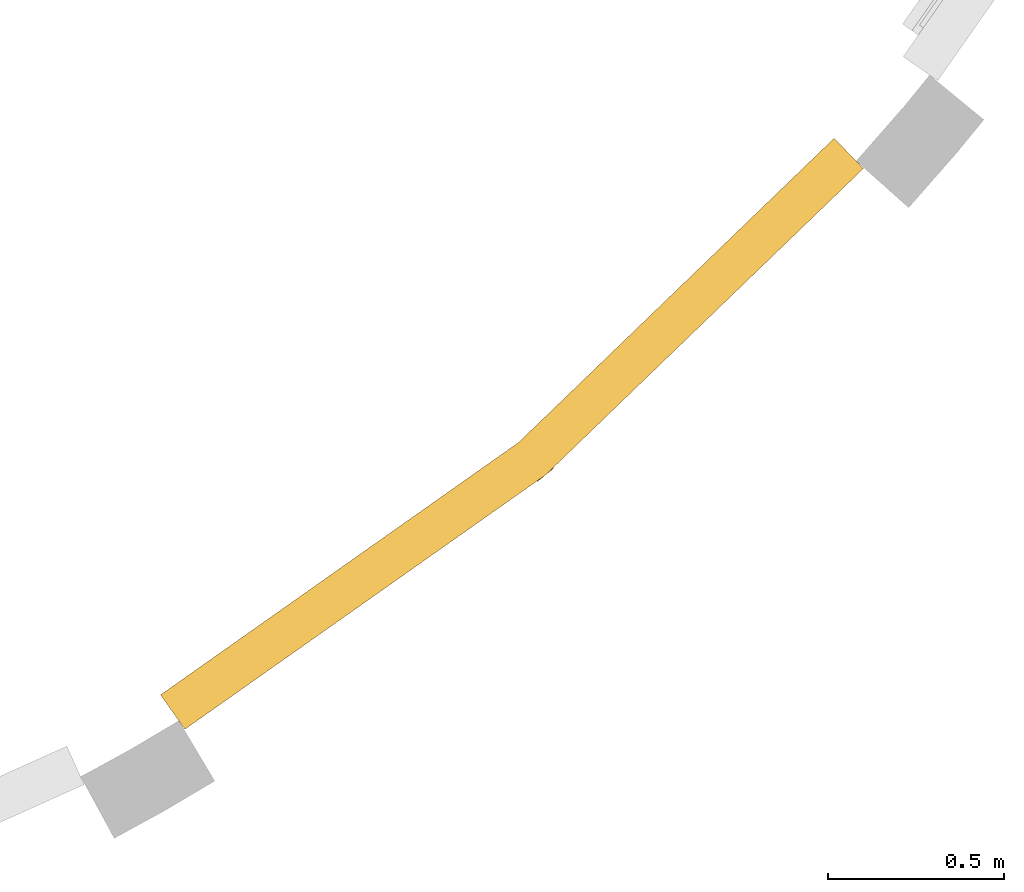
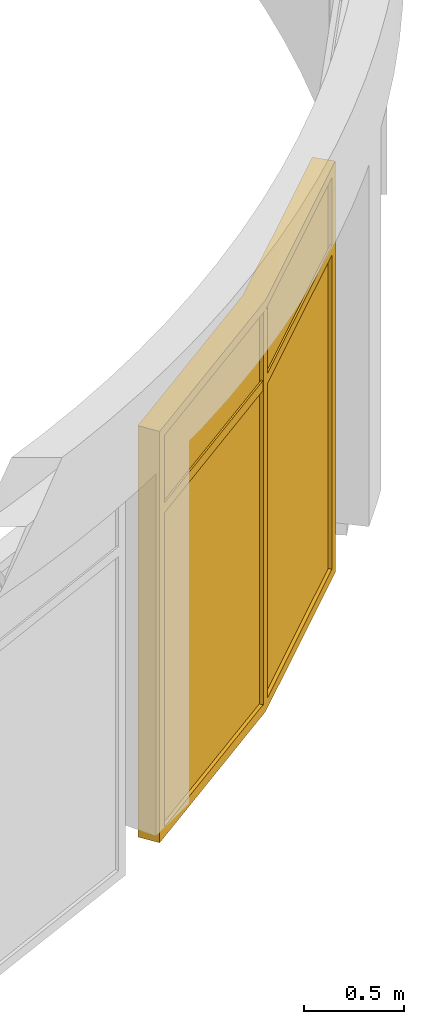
# One storey, part 6 of 7: 1 curtain wall.
"""IFC4 building model written with IfcOpenShell, lengths in millimetres."""

import ifcopenshell
import ifcopenshell.guid

model = None  # the IFC model being written
_history = None  # IfcOwnerHistory: only IFC2X3 demands one
_inside = {}  # id of a spatial element -> (the spatial element, [elements in it])
_under = {}  # id of a project, library or spatial element -> (it, [spatial elements below it])
_declared = {}  # id of a project -> (the project, [libraries it declares])
_typed = {}  # id of a type object -> (the type object, [elements of that type])
_made_of = {}  # id of a material, layer set ... -> (it, [elements and type objects made of it])


def new_model(schema):
    """Start an empty IFC model of exactly this schema.

    Asked for "IFC4X3", IfcOpenShell would pick the latest addendum, in which some entities
    have other attributes; the version numbers below select the first issue.
    IFC2X3 requires an IfcOwnerHistory on every rooted entity: one is made here for all.
    """
    global model, _history
    if schema == "IFC4X3":
        model = ifcopenshell.file(schema_version=(4, 3, 0, 0))
    else:
        model = ifcopenshell.file(schema=schema)
    _inside.clear()
    _under.clear()
    _declared.clear()
    _typed.clear()
    _made_of.clear()
    _history = None
    if model.schema == "IFC2X3":
        org = make("IfcOrganization", Name="unknown")
        user = make(
            "IfcPersonAndOrganization",
            ThePerson=make("IfcPerson", FamilyName="unknown"),
            TheOrganization=org,
        )
        app = make(
            "IfcApplication",
            ApplicationDeveloper=org,
            Version="unknown",
            ApplicationFullName="unknown",
            ApplicationIdentifier="unknown",
        )
        _history = make(
            "IfcOwnerHistory",
            OwningUser=user,
            OwningApplication=app,
            ChangeAction="ADDED",
            CreationDate=0,
        )
    return model


def make(cls, **values):
    """One entity of the class cls with the attributes given. An attribute that is None is left unset."""
    return model.create_entity(
        cls, **{name: value for name, value in values.items() if value is not None}
    )


def entity(cls, *values):
    """Any entity or typed value of the class cls, its attributes in the order of the schema. None: left unset."""
    e = model.create_entity(cls)
    for i, value in enumerate(values):
        if value is not None:
            e[i] = value
    return e


def rooted(cls, **values):
    """An entity with a GlobalId (a new one), such as an element, a storey or a relation."""
    return make(cls, GlobalId=ifcopenshell.guid.new(), OwnerHistory=_history, **values)


def si_unit(unit_type, name, prefix=None):
    """IfcSIUnit, for example si_unit("LENGTHUNIT", "METRE", prefix="MILLI")."""
    return make("IfcSIUnit", UnitType=unit_type, Prefix=prefix, Name=name)


def converted_unit(unit_type, name, factor, base, dimensions=None, offset=None):
    """IfcConversionBasedUnit, such as the inch: factor (a typed value) times the base unit."""
    return make(
        "IfcConversionBasedUnit"
        if offset is None
        else "IfcConversionBasedUnitWithOffset",
        ConversionOffset=offset,
        Dimensions=None
        if dimensions is None
        else entity("IfcDimensionalExponents", *dimensions),
        UnitType=unit_type,
        Name=name,
        ConversionFactor=make(
            "IfcMeasureWithUnit", ValueComponent=factor, UnitComponent=base
        ),
    )


def derived_unit(unit_type, elements):
    """IfcDerivedUnit: a product of units, each with its exponent."""
    return make(
        "IfcDerivedUnit",
        Elements=[
            make("IfcDerivedUnitElement", Unit=unit, Exponent=power)
            for unit, power in elements
        ],
        UnitType=unit_type,
    )


def assignment(units):
    """IfcUnitAssignment: the units of a project."""
    return None if units is None else make("IfcUnitAssignment", Units=units)


def point(xyz):
    """IfcCartesianPoint."""
    return None if xyz is None else make("IfcCartesianPoint", Coordinates=xyz)


def direction(xyz):
    """IfcDirection."""
    return None if xyz is None else make("IfcDirection", DirectionRatios=xyz)


def frame(location, z_axis=None, x_axis=None):
    """IfcAxis2Placement3D, a coordinate frame: its origin and axes. An axis left out is left unset."""
    return make(
        "IfcAxis2Placement3D",
        Location=point(location),
        Axis=direction(z_axis),
        RefDirection=direction(x_axis),
    )


def origin_with_axes():
    """The frame at (0, 0, 0) with the z axis (0, 0, 1) and the x axis (1, 0, 0) written out."""
    return frame((0.0, 0.0, 0.0), z_axis=(0.0, 0.0, 1.0), x_axis=(1.0, 0.0, 0.0))


def place(relative_to, where):
    """IfcLocalPlacement: puts the frame where relative to a parent placement (None: the world)."""
    return make(
        "IfcLocalPlacement", PlacementRelTo=relative_to, RelativePlacement=where
    )


def context(
    kind, dimensions, precision=None, world=None, true_north=None, identifier=None
):
    """IfcGeometricRepresentationContext, for example the 3D "Model" context."""
    return make(
        "IfcGeometricRepresentationContext",
        ContextIdentifier=identifier,
        ContextType=kind,
        CoordinateSpaceDimension=dimensions,
        Precision=precision,
        WorldCoordinateSystem=world,
        TrueNorth=true_north,
    )


def subcontext(parent, identifier, kind, view, scale=None):
    """IfcGeometricRepresentationSubContext, for example "Body" below "Model"."""
    return make(
        "IfcGeometricRepresentationSubContext",
        ContextIdentifier=identifier,
        ContextType=kind,
        ParentContext=parent,
        TargetScale=scale,
        TargetView=view,
    )


def project(units=None, contexts=None):
    """IfcProject with its units and contexts."""
    return rooted(
        "IfcProject",
        Name="project",
        RepresentationContexts=contexts,
        UnitsInContext=assignment(units),
    )


def spatial(cls, under=None, at=None, **own):
    """A site, building, storey or space (cls), placed at a placement, below another one or the project."""
    s = rooted(cls, ObjectPlacement=at, **own)
    if under is not None:
        _under.setdefault(under.id(), (under, []))[1].append(s)
    return s


def point_list(points):
    """IfcCartesianPointList2D or 3D."""
    cls = (
        "IfcCartesianPointList2D" if len(points[0]) == 2 else "IfcCartesianPointList3D"
    )
    return make(cls, CoordList=points)


def polygons(points, faces, closed=None, point_numbers=None):
    """IfcPolygonalFaceSet: a face is its outer loop, then its inner loops; points numbered from 1."""
    made = []
    for loops in faces:
        if len(loops) == 1:
            made.append(make("IfcIndexedPolygonalFace", CoordIndex=loops[0]))
        else:
            made.append(
                make(
                    "IfcIndexedPolygonalFaceWithVoids",
                    CoordIndex=loops[0],
                    InnerCoordIndices=loops[1:],
                )
            )
    return make(
        "IfcPolygonalFaceSet",
        Coordinates=point_list(points),
        Closed=closed,
        Faces=made,
        PnIndex=point_numbers,
    )


def shape(context_of_items, identifier, shape_type, items):
    """IfcShapeRepresentation: the items that make up one representation, for example the "Body"."""
    return make(
        "IfcShapeRepresentation",
        ContextOfItems=context_of_items,
        RepresentationIdentifier=identifier,
        RepresentationType=shape_type,
        Items=items,
    )


def material(Name=None, Category=None):
    """IfcMaterial."""
    return make("IfcMaterial", Name=Name, Category=Category)


def constituent(of_material, Name=None, Category=None, fraction=None):
    """IfcMaterialConstituent: one of the materials an element consists of."""
    return make(
        "IfcMaterialConstituent",
        Name=Name,
        Material=of_material,
        Fraction=fraction,
        Category=Category,
    )


def constituent_set(constituents=None, Name=None):
    """IfcMaterialConstituentSet."""
    return make(
        "IfcMaterialConstituentSet", Name=Name, MaterialConstituents=constituents
    )


def made_of(thing, what):
    """Note that an element or type object is made of a material, layer set ...; save() writes the relation."""
    if what is not None:
        _made_of.setdefault(what.id(), (what, []))[1].append(thing)
    return thing


def type_object(cls, material=None, **own):
    """A type object (cls), such as IfcWallType, which elements share."""
    return made_of(rooted(cls, **own), material)


def element(
    cls,
    number,
    at=None,
    inside=None,
    cuts=None,
    type_object=None,
    material=None,
    context=None,
    identifier="Body",
    shape_type=None,
    held_by="IfcProductDefinitionShape",
    body=None,
    shapes=None,
    **own,
):
    """One element of the class cls, such as IfcWall. Its Tag is "e" and its number.

    at: its placement. inside: the storey or other place that contains it. cuts: it is an
    opening in that element (IfcRelVoidsElement). A single representation is given by context,
    identifier, shape_type and body (its items); several are given by shapes. held_by: the class
    of the entity that holds the representations. save() writes the other relations.
    """
    e = rooted(cls, Tag="e%d" % number, ObjectPlacement=at, **own)
    if body is not None:
        shapes = [shape(context, identifier, shape_type, body)]
    if shapes is not None:
        e.Representation = make(held_by, Representations=shapes)
    if inside is not None:
        _inside.setdefault(inside.id(), (inside, []))[1].append(e)
    if cuts is not None:
        rooted(
            "IfcRelVoidsElement", RelatingBuildingElement=cuts, RelatedOpeningElement=e
        )
    if type_object is not None:
        _typed.setdefault(type_object.id(), (type_object, []))[1].append(e)
    return made_of(e, material)


def aggregate(whole, parts):
    """IfcRelAggregates: a whole, such as a stair, and the parts it consists of."""
    return rooted("IfcRelAggregates", RelatingObject=whole, RelatedObjects=parts)


def save(model, path):
    """Write the relations noted so far, then the file.

    IfcRelAggregates (storeys below a building ...), IfcRelContainedInSpatialStructure (elements
    in a storey), IfcRelDefinesByType, IfcRelAssociatesMaterial and IfcRelDeclares: one each for
    every whole, place, type object, material and project.
    """
    for whole, parts in _under.values():
        aggregate(whole, parts)
    for where, things in _inside.values():
        rooted(
            "IfcRelContainedInSpatialStructure",
            RelatedElements=things,
            RelatingStructure=where,
        )
    for kind, things in _typed.values():
        rooted("IfcRelDefinesByType", RelatedObjects=things, RelatingType=kind)
    for what, things in _made_of.values():
        rooted("IfcRelAssociatesMaterial", RelatedObjects=things, RelatingMaterial=what)
    for by, libraries in _declared.values():
        rooted("IfcRelDeclares", RelatingContext=by, RelatedDefinitions=libraries)
    model.write(path)


model = new_model("IFC4")

# Units and contexts
model_context = context("Model", 3, precision=0.01, world=origin_with_axes(), true_north=direction((0.0, 1.0)))
body_context = subcontext(model_context, "Body", "Model", "MODEL_VIEW")
ifc_project = project(units=[si_unit("LENGTHUNIT", "METRE", prefix="MILLI"), si_unit("AREAUNIT", "SQUARE_METRE"), si_unit("VOLUMEUNIT", "CUBIC_METRE"), converted_unit("PLANEANGLEUNIT", "DEGREE", entity("IfcPlaneAngleMeasure", 0.0174532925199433), si_unit("PLANEANGLEUNIT", "RADIAN"), dimensions=[0, 0, 0, 0, 0, 0, 0]), converted_unit("TIMEUNIT", "Year", entity("IfcTimeMeasure", 31557600.0), si_unit("TIMEUNIT", "SECOND"), dimensions=[0, 0, 1, 0, 0, 0, 0]), si_unit("MASSUNIT", "GRAM", prefix="KILO"), si_unit("THERMODYNAMICTEMPERATUREUNIT", "DEGREE_CELSIUS"), si_unit("LUMINOUSINTENSITYUNIT", "LUMEN"), si_unit("ENERGYUNIT", "JOULE", prefix="MEGA"), derived_unit("THERMALCONDUCTANCEUNIT", [(si_unit("POWERUNIT", "WATT"), 1), (si_unit("LENGTHUNIT", "METRE"), -1), (si_unit("THERMODYNAMICTEMPERATUREUNIT", "KELVIN"), -1)]), derived_unit("SPECIFICHEATCAPACITYUNIT", [(si_unit("ENERGYUNIT", "JOULE"), 1), (si_unit("MASSUNIT", "GRAM", prefix="KILO"), -1), (si_unit("THERMODYNAMICTEMPERATUREUNIT", "KELVIN"), -1)]), derived_unit("MASSDENSITYUNIT", [(si_unit("MASSUNIT", "GRAM", prefix="KILO"), 1), (si_unit("VOLUMEUNIT", "CUBIC_METRE"), -1)])], contexts=[model_context])

# Site, building, storey
site_placement = place(None, origin_with_axes())
site = spatial("IfcSite", under=ifc_project, at=site_placement, Name="Exteriér", CompositionType="ELEMENT")
building_placement = place(site_placement, origin_with_axes())
building = spatial("IfcBuilding", under=site, at=building_placement, Name="Univerzitní lezecké centrum", CompositionType="ELEMENT")
storey_placement = place(building_placement, origin_with_axes())
storey = spatial("IfcBuildingStorey", under=building, at=storey_placement, Name="1.NP", CompositionType="ELEMENT", Elevation=0.0)

# Curtain wall
ifc_material_1 = material(Name="Sklo")
ifc_constituent_1 = constituent(ifc_material_1, Name="Sklo 1")
ifc_constituent_2 = constituent(ifc_material_1, Name="Sklo 2")
ifc_constituent_3 = constituent(ifc_material_1, Name="Sklo 3")
ifc_constituent_4 = constituent(ifc_material_1, Name="Sklo 4")
ifc_material_2 = material(Name="Hliník")
ifc_constituent_5 = constituent(ifc_material_2, Name="Hliník 1")
ifc_constituent_6 = constituent(ifc_material_2, Name="Hliník 2")
ifc_constituent_7 = constituent(ifc_material_2, Name="Hliník 3")
ifc_constituent_8 = constituent(ifc_material_2, Name="Hliník 4")
ifc_constituent_9 = constituent(ifc_material_2, Name="Hliník 5")
ifc_constituent_10 = constituent(ifc_material_2, Name="Hliník 6")
ifc_constituent_11 = constituent(ifc_material_2, Name="Hliník 7")
ifc_constituent_12 = constituent(ifc_material_2, Name="Hliník 8")
ifc_constituent_13 = constituent(ifc_material_2, Name="Hliník 9")
ifc_constituent_14 = constituent(ifc_material_2, Name="Hliník 10")
ifc_constituent_15 = constituent(ifc_material_2, Name="Hliník 11")
ifc_constituent_16 = constituent(ifc_material_2, Name="Hliník 12")
ifc_constituent_set = constituent_set(constituents=[ifc_constituent_1, ifc_constituent_2, ifc_constituent_3, ifc_constituent_4, ifc_constituent_5, ifc_constituent_6, ifc_constituent_7, ifc_constituent_8, ifc_constituent_9, ifc_constituent_10, ifc_constituent_11, ifc_constituent_12, ifc_constituent_13, ifc_constituent_14, ifc_constituent_15, ifc_constituent_16])
curtain_wall_type = type_object("IfcCurtainWallType", Name="Typ lehkého obvodového pláště", PredefinedType="NOTDEFINED")
curtain_wall_placement = place(storey_placement, frame((7160.913689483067, -6982.286112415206, 0.0), z_axis=(0.0, 0.0, 1.0), x_axis=(1.0, 0.0, 0.0)))
element("IfcCurtainWall", 1, at=curtain_wall_placement, inside=storey, type_object=curtain_wall_type, material=ifc_constituent_set, Name="LOP01", PredefinedType="NOTDEFINED", context=body_context, shape_type="Tessellation", body=[
    polygons([(-493.5687337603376, -335.7401238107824, 1997.00000596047), (-482.0444864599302, -352.0861240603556, 1997.00000596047), (518.0157722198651, 352.9757602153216, 1997.00000596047), (506.4915249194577, 369.3217604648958, 1997.00000596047), (-493.5687337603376, -335.7401238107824, 30.00000000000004), (-482.0444864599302, -352.0861240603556, 30.00000000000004), (518.0157722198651, 352.9757602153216, 30.0), (506.4915249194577, 369.3217604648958, 30.0)], [[[1, 2, 3, 4]], [[5, 6, 2, 1]], [[2, 6, 7, 3]], [[4, 3, 7, 8]], [[1, 4, 8, 5]], [[8, 7, 6, 5]]], closed=True),
    polygons([(505.4483352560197, 368.4597200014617, 1997.00000596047), (519.3296050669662, 354.0614441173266, 1997.00000596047), (1400.226661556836, 1203.327690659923, 1997.00000596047), (1386.345391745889, 1217.725966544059, 1997.00000596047), (505.4483352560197, 368.4597200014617, 30.00000000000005), (519.3296050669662, 354.0614441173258, 30.00000000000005), (1400.226661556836, 1203.327690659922, 30.0), (1386.345391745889, 1217.725966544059, 30.0)], [[[1, 2, 3, 4]], [[5, 6, 2, 1]], [[2, 6, 7, 3]], [[4, 3, 7, 8]], [[1, 4, 8, 5]], [[8, 7, 6, 5]]], closed=True),
    polygons([(505.4483381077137, 368.4597227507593, 2469.999936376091), (519.3296079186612, 354.0614468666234, 2469.999936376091), (1400.226667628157, 1203.327696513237, 2469.999936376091), (1386.345397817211, 1217.725972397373, 2469.999936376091), (505.4483381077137, 368.4597227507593, 2002.999991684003), (519.3296079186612, 354.0614468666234, 2002.999991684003), (1400.226667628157, 1203.327696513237, 2002.999991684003), (1386.345397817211, 1217.725972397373, 2002.999991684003)], [[[1, 2, 3, 4]], [[5, 6, 2, 1]], [[2, 6, 7, 3]], [[4, 3, 7, 8]], [[1, 4, 8, 5]], [[8, 7, 6, 5]]], closed=True),
    polygons([(-493.568730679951, -335.7401216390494, 2469.99993637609), (-482.0444833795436, -352.0861218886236, 2469.99993637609), (518.0157789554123, 352.9757649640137, 2469.99993637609), (506.4915316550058, 369.321765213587, 2469.99993637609), (-493.568730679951, -335.7401216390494, 2002.999991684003), (-482.0444833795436, -352.0861218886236, 2002.999991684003), (518.0157789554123, 352.9757649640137, 2002.999991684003), (506.4915316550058, 369.321765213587, 2002.999991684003)], [[[1, 2, 3, 4]], [[5, 6, 2, 1]], [[2, 6, 7, 3]], [[4, 3, 7, 8]], [[1, 4, 8, 5]], [[8, 7, 6, 5]]], closed=True),
    polygons([(505.9368904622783, 368.9307324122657, 30.00000000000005), (505.9368904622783, 368.9307324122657, 60.00000000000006), (454.8272100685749, 430.780688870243, 60.00000000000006), (454.8272100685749, 430.780688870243, 0.0), (531.4917306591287, 338.0057541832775, 0.0), (531.4917306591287, 338.0057541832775, 60.00000000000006), (518.7143105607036, 353.4682432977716, 60.00000000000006), (518.7143105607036, 353.4682432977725, 30.00000000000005), (1386.345391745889, 1217.725966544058, 30.0), (1364.747977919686, 1196.904061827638, 60.0), (1309.222898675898, 1254.497165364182, 60.0), (1352.417726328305, 1296.140974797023, 0.0), (1435.705345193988, 1209.751319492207, 0.0), (1392.510517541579, 1168.107510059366, 60.0), (1378.629247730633, 1182.505785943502, 60.0), (1400.226661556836, 1203.327690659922, 30.0)], [[[1, 2, 3, 4, 5, 6, 7, 8]], [[1, 9, 10, 2]], [[10, 11, 3, 2]], [[3, 11, 12, 4]], [[4, 12, 13, 5]], [[5, 13, 14, 6]], [[7, 6, 14, 15]], [[15, 16, 8, 7]], [[8, 16, 9, 1]], [[9, 16, 15, 14, 13, 12, 11, 10]]], closed=True),
    polygons([(521.2725348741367, 397.6062642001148, 1997.0), (546.827375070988, 366.6812859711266, 1997.0), (546.827375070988, 366.6812859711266, 1970.0), (553.2160851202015, 358.9500414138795, 1970.0), (553.2160851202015, 358.9500414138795, 2030.0), (546.827375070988, 366.6812859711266, 2030.0), (546.827375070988, 366.6812859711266, 2003.0), (521.2725348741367, 397.6062642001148, 2003.0), (521.2725348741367, 397.6062642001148, 2030.0), (514.8838248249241, 405.3375087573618, 2030.0), (514.8838248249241, 405.3375087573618, 1970.0), (521.2725348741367, 397.6062642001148, 1970.0), (1357.807343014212, 1204.103199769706, 1997.0), (1385.569882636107, 1175.306648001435, 1997.0), (1385.569882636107, 1175.306648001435, 1970.0), (1392.510517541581, 1168.107510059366, 1970.0), (1392.510517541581, 1168.107510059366, 2030.0), (1385.569882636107, 1175.306648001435, 2030.0), (1385.569882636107, 1175.306648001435, 2003.0), (1357.807343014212, 1204.103199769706, 2003.0), (1357.807343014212, 1204.103199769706, 2030.0), (1350.86670810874, 1211.302337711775, 2030.0), (1350.86670810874, 1211.302337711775, 1970.0), (1357.807343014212, 1204.103199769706, 1970.0)], [[[1, 2, 3, 4, 5, 6, 7, 8, 9, 10, 11, 12]], [[1, 13, 14, 2]], [[2, 14, 15, 3]], [[15, 16, 4, 3]], [[5, 4, 16, 17]], [[18, 6, 5, 17]], [[6, 18, 19, 7]], [[8, 7, 19, 20]], [[9, 8, 20, 21]], [[9, 21, 22, 10]], [[11, 10, 22, 23]], [[12, 11, 23, 24]], [[12, 24, 13, 1]], [[14, 13, 24, 23, 22, 21, 20, 19, 18, 17, 16, 15]]], closed=True),
    polygons([(-493.5687237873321, -335.7401167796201, 2000.0), (-469.0497234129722, -318.45374582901, 2000.0), (-515.1467126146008, -253.0697448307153, 2000.0), (-564.1847133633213, -287.6424867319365, 2000.0), (-495.0392295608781, -385.7184882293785, 2000.0), (-446.0012288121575, -351.1457463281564, 2000.0), (-457.5254761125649, -334.7997460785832, 2000.0), (-482.0444764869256, -352.0861170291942, 2000.0), (-493.5687237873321, -335.7401167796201, 30.00000000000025), (-469.0497234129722, -318.45374582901, 59.99999999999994), (-515.1467126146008, -253.0697448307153, 60.00000000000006), (-564.1847133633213, -287.6424867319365, 0.0), (-495.0392295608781, -385.7184882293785, 0.0), (-446.0012288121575, -351.1457463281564, 59.99999999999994), (-457.5254761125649, -334.7997460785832, 59.99999999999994), (-482.0444764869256, -352.0861170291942, 30.00000000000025)], [[[1, 2, 3, 4, 5, 6, 7, 8]], [[1, 9, 10, 2]], [[10, 11, 3, 2]], [[3, 11, 12, 4]], [[4, 12, 13, 5]], [[5, 13, 14, 6]], [[7, 6, 14, 15]], [[15, 16, 8, 7]], [[8, 16, 9, 1]], [[9, 16, 15, 14, 13, 12, 11, 10]]], closed=True),
    polygons([(-474.8118470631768, -310.2807457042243, 1997.0), (-451.763352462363, -342.9727462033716, 1997.0), (-451.763352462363, -342.9727462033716, 1970.0), (-446.0012288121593, -351.1457463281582, 1970.0), (-446.0012288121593, -351.1457463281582, 2030.0), (-451.763352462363, -342.9727462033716, 2030.0), (-451.763352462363, -342.9727462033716, 2003.0), (-474.8118470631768, -310.2807457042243, 2003.0), (-474.8118470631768, -310.2807457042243, 2030.0), (-480.5739707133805, -302.1077455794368, 2030.0), (-480.5739707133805, -302.1077455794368, 1970.0), (-474.8118470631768, -310.2807457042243, 1970.0), (474.8850675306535, 359.2740039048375, 1997.0), (500.4399077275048, 328.3490256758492, 1997.0), (500.4399077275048, 328.3490256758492, 1970.0), (506.8286177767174, 320.6177811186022, 1970.0), (506.8286177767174, 320.6177811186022, 2030.0), (500.4399077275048, 328.3490256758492, 2030.0), (500.4399077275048, 328.3490256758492, 2003.0), (474.8850675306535, 359.2740039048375, 2003.0), (474.8850675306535, 359.2740039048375, 2030.0), (468.4963574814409, 367.0052484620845, 2030.0), (468.4963574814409, 367.0052484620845, 1970.0), (474.8850675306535, 359.2740039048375, 1970.0)], [[[1, 2, 3, 4, 5, 6, 7, 8, 9, 10, 11, 12]], [[1, 13, 14, 2]], [[2, 14, 15, 3]], [[15, 16, 4, 3]], [[5, 4, 16, 17]], [[18, 6, 5, 17]], [[6, 18, 19, 7]], [[8, 7, 19, 20]], [[9, 8, 20, 21]], [[9, 21, 22, 10]], [[11, 10, 22, 23]], [[12, 11, 23, 24]], [[12, 24, 13, 1]], [[14, 13, 24, 23, 22, 21, 20, 19, 18, 17, 16, 15]]], closed=True),
    polygons([(1386.345391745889, 1217.725966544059, 2000.0), (1400.226661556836, 1203.327690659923, 2000.0), (1378.629247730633, 1182.505785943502, 2000.0), (1392.510517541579, 1168.107510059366, 2000.0), (1435.705345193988, 1209.751319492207, 2000.0), (1352.417726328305, 1296.140974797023, 2000.0), (1309.222898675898, 1254.497165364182, 2000.0), (1364.747977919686, 1196.904061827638, 2000.0), (1386.345391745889, 1217.725966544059, 30.00000000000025), (1400.226661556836, 1203.327690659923, 30.00000000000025), (1378.629247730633, 1182.505785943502, 59.99999999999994), (1392.510517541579, 1168.107510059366, 59.99999999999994), (1435.705345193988, 1209.751319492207, 0.0), (1352.417726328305, 1296.140974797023, 0.0), (1309.222898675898, 1254.497165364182, 60.00000000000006), (1364.747977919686, 1196.904061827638, 59.99999999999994)], [[[1, 2, 3, 4, 5, 6, 7, 8]], [[2, 1, 9, 10]], [[11, 3, 2, 10]], [[3, 11, 12, 4]], [[5, 4, 12, 13]], [[6, 5, 13, 14]], [[7, 6, 14, 15]], [[16, 8, 7, 15]], [[1, 8, 16, 9]], [[9, 16, 15, 14, 13, 12, 11, 10]]], closed=True),
    polygons([(505.9368904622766, 368.9307324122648, 60.00000000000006), (527.5976816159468, 389.8137387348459, 60.00000000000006), (527.5976816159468, 389.8137387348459, 2000.0), (505.9368904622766, 368.9307324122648, 2000.0), (481.3459394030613, 351.5936348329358, 60.00000000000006), (470.0896774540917, 365.2153070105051, 60.00000000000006), (516.3414196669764, 403.4354109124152, 60.00000000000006), (516.3414196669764, 403.4354109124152, 2000.0), (470.0896774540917, 365.2153070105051, 2000.0), (481.3459394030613, 351.5936348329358, 2000.0)], [[[1, 2, 3, 4]], [[5, 6, 7, 2, 1]], [[3, 2, 7, 8]], [[4, 3, 8, 9, 10]], [[10, 5, 1, 4]], [[10, 9, 6, 5]], [[9, 8, 7, 6]]], closed=True),
    polygons([(494.1233595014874, 336.1311457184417, 2000.0), (508.3097813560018, 318.9635647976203, 2000.0), (554.5615235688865, 357.1836686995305, 2000.0), (540.3751017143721, 374.3512496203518, 2000.0), (519.3296127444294, 354.0614515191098, 2000.0), (511.5919872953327, 362.0872638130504, 2000.0), (518.0157734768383, 352.9757611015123, 2000.0), (494.1233595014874, 336.1311457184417, 59.99999999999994), (508.3097813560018, 318.9635647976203, 59.99999999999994), (554.5615235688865, 357.1836686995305, 59.99999999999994), (540.3751017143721, 374.3512496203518, 59.99999999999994), (519.3296127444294, 354.0614515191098, 60.00000000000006), (511.5919872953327, 362.0872638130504, 60.00000000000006), (518.0157734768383, 352.9757611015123, 60.00000000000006)], [[[1, 2, 3, 4, 5, 6, 7]], [[8, 9, 2, 1]], [[3, 2, 9, 10]], [[11, 4, 3, 10]], [[4, 11, 12, 5]], [[6, 5, 12, 13]], [[13, 14, 7, 6]], [[7, 14, 8, 1]], [[14, 13, 12, 11, 10, 9, 8]]], closed=True),
    polygons([(-493.5687237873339, -335.740116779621, 30.00000000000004), (-469.0497234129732, -318.45374582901, 60.00000000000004), (-515.1467126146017, -253.0697448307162, 60.00000000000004), (-564.1847133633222, -287.6424867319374, 0.0), (-495.039229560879, -385.7184882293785, 0.0), (-446.0012288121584, -351.1457463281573, 60.00000000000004), (-457.5254761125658, -334.7997460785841, 60.00000000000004), (-482.0444764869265, -352.0861170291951, 30.00000000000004), (505.9368904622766, 368.9307324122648, 30.0), (505.9368904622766, 368.9307324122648, 60.0), (454.8272100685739, 430.7806888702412, 60.0), (454.8272100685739, 430.7806888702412, 0.0), (531.4917306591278, 338.0057541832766, 0.0), (531.4917306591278, 338.0057541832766, 60.0), (518.7143105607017, 353.4682432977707, 60.0), (518.7143105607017, 353.4682432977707, 30.0)], [[[1, 2, 3, 4, 5, 6, 7, 8]], [[1, 9, 10, 2]], [[10, 11, 3, 2]], [[3, 11, 12, 4]], [[4, 12, 13, 5]], [[5, 13, 14, 6]], [[7, 6, 14, 15]], [[15, 16, 8, 7]], [[8, 16, 9, 1]], [[9, 16, 15, 14, 13, 12, 11, 10]]], closed=True),
    polygons([(1386.345391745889, 1217.725966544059, 2469.999914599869), (1400.226661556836, 1203.327690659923, 2469.999914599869), (1378.629247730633, 1182.505785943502, 2439.999914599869), (1392.510517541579, 1168.107510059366, 2439.999914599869), (1435.705345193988, 1209.751319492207, 2499.999914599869), (1352.417726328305, 1296.140974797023, 2499.999914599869), (1309.222898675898, 1254.497165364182, 2439.999914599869), (1364.747977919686, 1196.904061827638, 2439.999914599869), (1386.345391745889, 1217.725966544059, 2000.0), (1400.226661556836, 1203.327690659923, 2000.0), (1378.629247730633, 1182.505785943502, 2000.0), (1392.510517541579, 1168.107510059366, 2000.0), (1435.705345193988, 1209.751319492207, 2000.0), (1352.417726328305, 1296.140974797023, 2000.0), (1309.222898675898, 1254.497165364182, 2000.0), (1364.747977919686, 1196.904061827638, 2000.0)], [[[1, 2, 3, 4, 5, 6, 7, 8]], [[2, 1, 9, 10]], [[11, 3, 2, 10]], [[3, 11, 12, 4]], [[13, 5, 4, 12]], [[14, 6, 5, 13]], [[15, 7, 6, 14]], [[16, 8, 7, 15]], [[1, 8, 16, 9]], [[9, 16, 15, 14, 13, 12, 11, 10]]], closed=True),
    polygons([(505.9368904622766, 368.9307324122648, 2000.0), (527.5976816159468, 389.8137387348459, 2000.0), (527.5976816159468, 389.8137387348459, 2439.999966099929), (505.9368904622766, 368.9307324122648, 2439.999966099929), (481.3459394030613, 351.5936348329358, 2000.0), (470.0896774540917, 365.2153070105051, 2000.0), (516.3414196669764, 403.4354109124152, 2000.0), (516.3414196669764, 403.4354109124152, 2439.999966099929), (470.0896774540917, 365.2153070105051, 2439.999966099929), (481.3459394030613, 351.5936348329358, 2439.999966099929)], [[[1, 2, 3, 4]], [[5, 6, 7, 2, 1]], [[3, 2, 7, 8]], [[4, 3, 8, 9, 10]], [[10, 5, 1, 4]], [[10, 9, 6, 5]], [[8, 7, 6, 9]]], closed=True),
    polygons([(494.1233595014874, 336.1311457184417, 2439.999966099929), (508.3097813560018, 318.9635647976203, 2439.999966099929), (554.5615235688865, 357.1836686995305, 2439.999966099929), (540.3751017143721, 374.3512496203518, 2439.999966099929), (519.3296127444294, 354.0614515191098, 2439.999966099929), (511.5919872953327, 362.0872638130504, 2439.999966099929), (518.0157734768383, 352.9757611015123, 2439.999966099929), (494.1233595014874, 336.1311457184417, 2000.0), (508.3097813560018, 318.9635647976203, 2000.0), (554.5615235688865, 357.1836686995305, 2000.0), (540.3751017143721, 374.3512496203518, 2000.0), (519.3296127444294, 354.0614515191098, 2000.0), (511.5919872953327, 362.0872638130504, 2000.0), (518.0157734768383, 352.9757611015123, 2000.0)], [[[1, 2, 3, 4, 5, 6, 7]], [[8, 9, 2, 1]], [[2, 9, 10, 3]], [[11, 4, 3, 10]], [[4, 11, 12, 5]], [[6, 5, 12, 13]], [[13, 14, 7, 6]], [[7, 14, 8, 1]], [[14, 13, 12, 11, 10, 9, 8]]], closed=True),
    polygons([(-493.5687237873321, -335.7401167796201, 2469.999966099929), (-469.0497234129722, -318.45374582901, 2439.999966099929), (-515.1467126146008, -253.0697448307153, 2439.999966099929), (-564.1847133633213, -287.6424867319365, 2499.999966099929), (-495.0392295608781, -385.7184882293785, 2499.999966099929), (-446.0012288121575, -351.1457463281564, 2439.999966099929), (-457.5254761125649, -334.7997460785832, 2439.999966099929), (-482.0444764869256, -352.0861170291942, 2469.999966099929), (-493.5687237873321, -335.7401167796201, 2000.0), (-469.0497234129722, -318.45374582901, 2000.0), (-515.1467126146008, -253.0697448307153, 2000.0), (-564.1847133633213, -287.6424867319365, 2000.0), (-495.0392295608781, -385.7184882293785, 2000.0), (-446.0012288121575, -351.1457463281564, 2000.0), (-457.5254761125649, -334.7997460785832, 2000.0), (-482.0444764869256, -352.0861170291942, 2000.0)], [[[1, 2, 3, 4, 5, 6, 7, 8]], [[1, 9, 10, 2]], [[10, 11, 3, 2]], [[11, 12, 4, 3]], [[12, 13, 5, 4]], [[13, 14, 6, 5]], [[7, 6, 14, 15]], [[15, 16, 8, 7]], [[8, 16, 9, 1]], [[9, 16, 15, 14, 13, 12, 11, 10]]], closed=True),
    polygons([(505.9368904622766, 368.9307324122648, 2469.999942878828), (518.7143105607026, 353.4682432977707, 2469.999942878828), (518.7143105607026, 353.4682432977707, 2439.999942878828), (531.4917306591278, 338.0057541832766, 2439.999942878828), (531.4917306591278, 338.0057541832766, 2499.999942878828), (454.8272100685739, 430.7806888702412, 2499.999942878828), (454.8272100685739, 430.7806888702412, 2439.999942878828), (505.9368904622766, 368.9307324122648, 2439.999942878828), (1386.345391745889, 1217.725966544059, 2469.999942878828), (1400.226661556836, 1203.327690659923, 2469.999942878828), (1378.629247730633, 1182.505785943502, 2439.999942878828), (1392.510517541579, 1168.107510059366, 2439.999942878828), (1435.705345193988, 1209.751319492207, 2499.999942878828), (1352.417726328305, 1296.140974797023, 2499.999942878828), (1309.222898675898, 1254.497165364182, 2439.999942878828), (1364.747977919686, 1196.904061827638, 2439.999942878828)], [[[1, 2, 3, 4, 5, 6, 7, 8]], [[2, 1, 9, 10]], [[11, 3, 2, 10]], [[3, 11, 12, 4]], [[5, 4, 12, 13]], [[6, 5, 13, 14]], [[7, 6, 14, 15]], [[16, 8, 7, 15]], [[1, 8, 16, 9]], [[9, 16, 15, 14, 13, 12, 11, 10]]], closed=True),
    polygons([(-493.5687237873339, -335.740116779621, 2469.999942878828), (-482.0444764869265, -352.0861170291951, 2469.999942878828), (-457.5254761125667, -334.7997460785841, 2439.999942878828), (-446.0012288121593, -351.1457463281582, 2439.999942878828), (-495.0392295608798, -385.7184882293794, 2499.999942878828), (-564.1847133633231, -287.6424867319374, 2499.999942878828), (-515.1467126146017, -253.0697448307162, 2439.999942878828), (-469.0497234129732, -318.4537458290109, 2439.999942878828), (505.9368904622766, 368.9307324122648, 2469.999942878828), (518.7143105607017, 353.4682432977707, 2469.999942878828), (518.7143105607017, 353.4682432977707, 2439.999942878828), (531.4917306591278, 338.0057541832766, 2439.999942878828), (531.4917306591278, 338.0057541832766, 2499.999942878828), (454.8272100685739, 430.7806888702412, 2499.999942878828), (454.8272100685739, 430.7806888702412, 2439.999942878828), (505.9368904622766, 368.9307324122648, 2439.999942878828)], [[[1, 2, 3, 4, 5, 6, 7, 8]], [[2, 1, 9, 10]], [[11, 3, 2, 10]], [[3, 11, 12, 4]], [[5, 4, 12, 13]], [[6, 5, 13, 14]], [[7, 6, 14, 15]], [[16, 8, 7, 15]], [[1, 8, 16, 9]], [[9, 16, 15, 14, 13, 12, 11, 10]]], closed=True),
])

save(model, "model.ifc")
